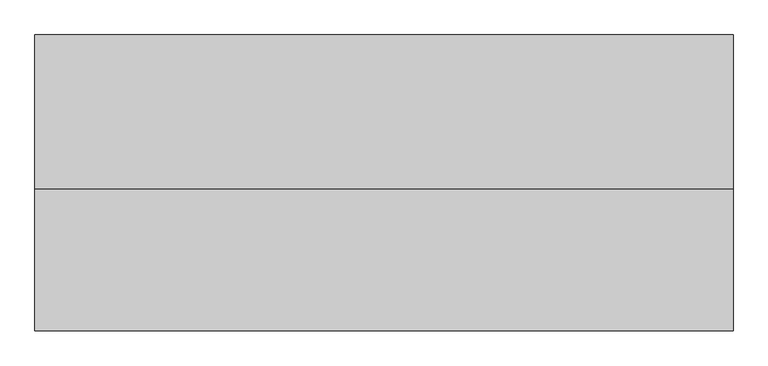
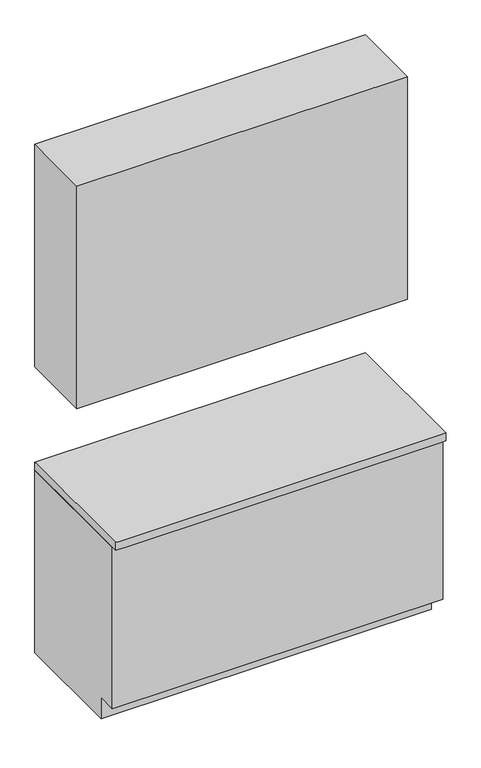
"""IFC4 building model written with IfcOpenShell, lengths in millimetres: furniture geometry, Casework Schematic - Base and Upper : Casework Schematic."""

from ifc_helpers import new_model, si_unit, frame, origin, place, context, project, spatial, polyline, outline, extrude, faceted_brep, source, transform, mapped, element, save


def furniture_e14fe356(model_context):
    return source(origin(), model_context, "Body", "SolidModel", [
        extrude(outline(polyline([(0.0, 0.0), (1500.0, 0.0), (1500.0, -330.2), (0.0, -330.2), (0.0, 0.0)])), frame((0.0, 0.0, 1371.6), z_axis=(0.0, 0.0, 1.0), x_axis=(1.0, 0.0, 0.0)), (0.0, 0.0, 1.0), 1066.8),
        extrude(outline(polyline([(0.0, 876.3), (0.0, 0.0), (-520.7, 0.0), (-520.7, 101.6), (-609.6, 101.6), (-609.6, 876.3), (0.0, 876.3)])), frame((0.0, 0.0, 0.0), z_axis=(1.0, 0.0, 0.0), x_axis=(0.0, 1.0, 0.0)), (0.0, 0.0, 1.0), 1500.0),
        faceted_brep([(1500.0, 0.0, 876.3), (1500.0, -12.7, 876.3), (1500.0, -635.0, 876.3), (1487.3, -635.0, 876.3), (1461.9, -635.0, 876.3), (38.1, -635.0, 876.3), (12.7, -635.0, 876.3), (0.0, -635.0, 876.3), (0.0, -12.7, 876.3), (0.0, 0.0, 876.3), (12.7, 0.0, 876.3), (38.1, 0.0, 876.3), (1461.9, 0.0, 876.3), (1487.3, 0.0, 876.3), (1500.0, -635.0, 914.4), (1500.0, -12.7, 914.4), (1500.0, 0.0, 914.4), (1487.3, 0.0, 914.4), (12.7, 0.0, 914.4), (0.0, 0.0, 914.4), (0.0, -12.7, 914.4), (0.0, -635.0, 914.4), (12.7, -635.0, 914.4), (1487.3, -635.0, 914.4), (1500.0, -635.0, 889.0), (0.0, -635.0, 889.0), (0.0, 0.0, 889.0), (1500.0, 0.0, 889.0)], [[[0, 1, 2, 3, 4, 5, 6, 7, 8, 9, 10, 11, 12, 13]], [[14, 15, 16, 17, 18, 19, 20, 21, 22, 23]], [[2, 24, 14, 23, 22, 21, 25, 7, 6, 5, 4, 3]], [[8, 7, 25, 21, 20, 19, 26, 9]], [[13, 12, 11, 10, 9, 26, 19, 18, 17, 16, 27, 0]], [[27, 16, 15, 14, 24, 2, 1, 0]]]),
    ])


if __name__ == "__main__":
    model = new_model("IFC4")
    model_context = context("Model", 3, world=origin())
    ifc_project = project(units=[si_unit("LENGTHUNIT", "METRE", prefix="MILLI")], contexts=[model_context])
    site = spatial("IfcSite", under=ifc_project)
    building = spatial("IfcBuilding", under=site)
    placement = place(None, origin())
    furniture_shape = furniture_e14fe356(model_context)
    element("IfcFurniture", 1, ObjectType="Casework Schematic - Base and Upper : Casework Schematic", at=placement, inside=building, context=model_context, shape_type="MappedRepresentation", body=[
        mapped(furniture_shape, transform((0.0, 0.0, 0.0), x_axis=(1.0, 0.0, 0.0), y_axis=(0.0, 1.0, 0.0), z_axis=(0.0, 0.0, 1.0))),
    ])
    save(model, "model.ifc")
